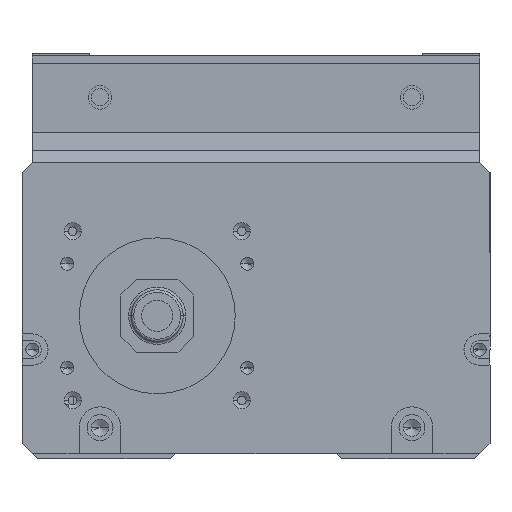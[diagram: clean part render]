
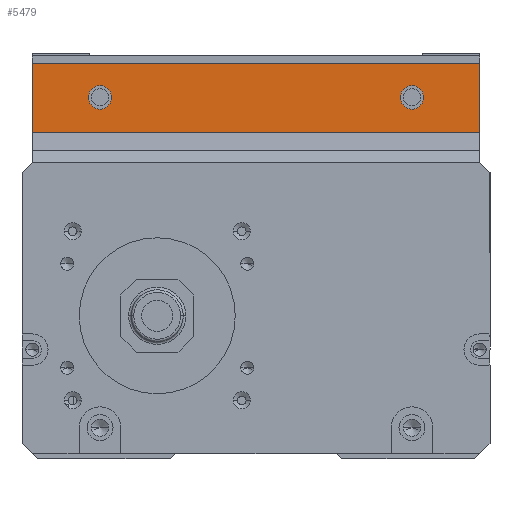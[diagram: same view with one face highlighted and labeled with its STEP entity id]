
A CAD part, front view. The second image highlights one B-rep face of the part: STEP entity #5479.
In plain terms, the highlighted planar face has unit normal (0, -1, 0).
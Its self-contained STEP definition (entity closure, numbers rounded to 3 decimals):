
#274 = CARTESIAN_POINT ( 'NONE',  ( 30., 78., -10.25 ) ) ;
#396 = LINE ( 'NONE', #14796, #7974 ) ;
#831 = LINE ( 'NONE', #6472, #6134 ) ;
#1168 = EDGE_CURVE ( 'NONE', #7791, #10220, #3843, .T. ) ;
#1513 = EDGE_CURVE ( 'NONE', #9599, #4772, #4251, .T. ) ;
#2345 = ORIENTED_EDGE ( 'NONE', *, *, #1513, .T. ) ;
#2563 = AXIS2_PLACEMENT_3D ( 'NONE', #12817, #11580, #11471 ) ;
#2737 = VERTEX_POINT ( 'NONE', #274 ) ;
#2896 = EDGE_CURVE ( 'NONE', #10220, #13550, #396, .T. ) ;
#3107 = DIRECTION ( 'NONE',  ( -1., 0., 0. ) ) ;
#3118 = ORIENTED_EDGE ( 'NONE', *, *, #1168, .T. ) ;
#3149 = CARTESIAN_POINT ( 'NONE',  ( 45., 78., -14.788 ) ) ;
#3344 = ORIENTED_EDGE ( 'NONE', *, *, #2896, .T. ) ;
#3579 = EDGE_CURVE ( 'NONE', #13550, #10279, #831, .T. ) ;
#3839 = ORIENTED_EDGE ( 'NONE', *, *, #3579, .T. ) ;
#3843 = LINE ( 'NONE', #8850, #9121 ) ;
#3857 = FACE_BOUND ( 'NONE', #9939, .T. ) ;
#3978 = ORIENTED_EDGE ( 'NONE', *, *, #15627, .T. ) ;
#4096 = DIRECTION ( 'NONE',  ( 0., 0., -1. ) ) ;
#4101 = DIRECTION ( 'NONE',  ( 0., -1., 0. ) ) ;
#4136 = CARTESIAN_POINT ( 'NONE',  ( 45., 78., -1.5 ) ) ;
#4165 = ORIENTED_EDGE ( 'NONE', *, *, #6545, .F. ) ;
#4176 = PLANE ( 'NONE',  #10059 ) ;
#4251 = CIRCLE ( 'NONE', #7815, 2.25 ) ;
#4413 = EDGE_CURVE ( 'NONE', #2737, #6105, #12490, .T. ) ;
#4772 = VERTEX_POINT ( 'NONE', #11772 ) ;
#5009 = EDGE_CURVE ( 'NONE', #4772, #9599, #8265, .T. ) ;
#5479 = ADVANCED_FACE ( 'NONE', ( #3857, #9137, #14324 ), #4176, .T. ) ;
#5574 = LINE ( 'NONE', #3149, #10793 ) ;
#6105 = VERTEX_POINT ( 'NONE', #10525 ) ;
#6134 = VECTOR ( 'NONE', #6432, 1000. ) ;
#6432 = DIRECTION ( 'NONE',  ( 0., 0., -1. ) ) ;
#6472 = CARTESIAN_POINT ( 'NONE',  ( -43., 78., -1.5 ) ) ;
#6545 = EDGE_CURVE ( 'NONE', #7791, #10279, #5574, .T. ) ;
#7791 = VERTEX_POINT ( 'NONE', #13931 ) ;
#7815 = AXIS2_PLACEMENT_3D ( 'NONE', #14519, #14583, #14587 ) ;
#7974 = VECTOR ( 'NONE', #14770, 1000. ) ;
#8265 = CIRCLE ( 'NONE', #12908, 2.25 ) ;
#8850 = CARTESIAN_POINT ( 'NONE',  ( 43., 78., -1.5 ) ) ;
#8981 = ORIENTED_EDGE ( 'NONE', *, *, #5009, .T. ) ;
#9121 = VECTOR ( 'NONE', #13441, 1000. ) ;
#9137 = FACE_BOUND ( 'NONE', #15142, .T. ) ;
#9474 = DIRECTION ( 'NONE',  ( 0., 0., 1. ) ) ;
#9507 = DIRECTION ( 'NONE',  ( 0., 1., 0. ) ) ;
#9524 = CARTESIAN_POINT ( 'NONE',  ( -30., 78., -5.75 ) ) ;
#9599 = VERTEX_POINT ( 'NONE', #9524 ) ;
#9939 = EDGE_LOOP ( 'NONE', ( #8981, #2345 ) ) ;
#10059 = AXIS2_PLACEMENT_3D ( 'NONE', #4136, #4101, #4096 ) ;
#10220 = VERTEX_POINT ( 'NONE', #14802 ) ;
#10279 = VERTEX_POINT ( 'NONE', #14327 ) ;
#10525 = CARTESIAN_POINT ( 'NONE',  ( 30., 78., -5.75 ) ) ;
#10793 = VECTOR ( 'NONE', #3107, 1000. ) ;
#11194 = EDGE_LOOP ( 'NONE', ( #4165, #3118, #3344, #3839 ) ) ;
#11471 = DIRECTION ( 'NONE',  ( 0., 0., -1. ) ) ;
#11580 = DIRECTION ( 'NONE',  ( 0., 1., 0. ) ) ;
#11772 = CARTESIAN_POINT ( 'NONE',  ( -30., 78., -10.25 ) ) ;
#12490 = CIRCLE ( 'NONE', #15659, 2.25 ) ;
#12494 = CARTESIAN_POINT ( 'NONE',  ( -43., 78., -1.5 ) ) ;
#12620 = CARTESIAN_POINT ( 'NONE',  ( -30., 78., -8. ) ) ;
#12817 = CARTESIAN_POINT ( 'NONE',  ( 30., 78., -8. ) ) ;
#12908 = AXIS2_PLACEMENT_3D ( 'NONE', #12620, #9507, #9474 ) ;
#13441 = DIRECTION ( 'NONE',  ( 0., 0., 1. ) ) ;
#13550 = VERTEX_POINT ( 'NONE', #12494 ) ;
#13628 = CARTESIAN_POINT ( 'NONE',  ( 30., 78., -8. ) ) ;
#13867 = DIRECTION ( 'NONE',  ( 0., 1., 0. ) ) ;
#13919 = CIRCLE ( 'NONE', #2563, 2.25 ) ;
#13931 = CARTESIAN_POINT ( 'NONE',  ( 43., 78., -14.788 ) ) ;
#14324 = FACE_OUTER_BOUND ( 'NONE', #11194, .T. ) ;
#14327 = CARTESIAN_POINT ( 'NONE',  ( -43., 78., -14.788 ) ) ;
#14428 = DIRECTION ( 'NONE',  ( 0., 0., -1. ) ) ;
#14519 = CARTESIAN_POINT ( 'NONE',  ( -30., 78., -8. ) ) ;
#14579 = ORIENTED_EDGE ( 'NONE', *, *, #4413, .T. ) ;
#14583 = DIRECTION ( 'NONE',  ( 0., 1., 0. ) ) ;
#14587 = DIRECTION ( 'NONE',  ( 0., 0., 1. ) ) ;
#14770 = DIRECTION ( 'NONE',  ( -1., 0., 0. ) ) ;
#14796 = CARTESIAN_POINT ( 'NONE',  ( 45., 78., -1.5 ) ) ;
#14802 = CARTESIAN_POINT ( 'NONE',  ( 43., 78., -1.5 ) ) ;
#15142 = EDGE_LOOP ( 'NONE', ( #14579, #3978 ) ) ;
#15627 = EDGE_CURVE ( 'NONE', #6105, #2737, #13919, .T. ) ;
#15659 = AXIS2_PLACEMENT_3D ( 'NONE', #13628, #13867, #14428 ) ;
